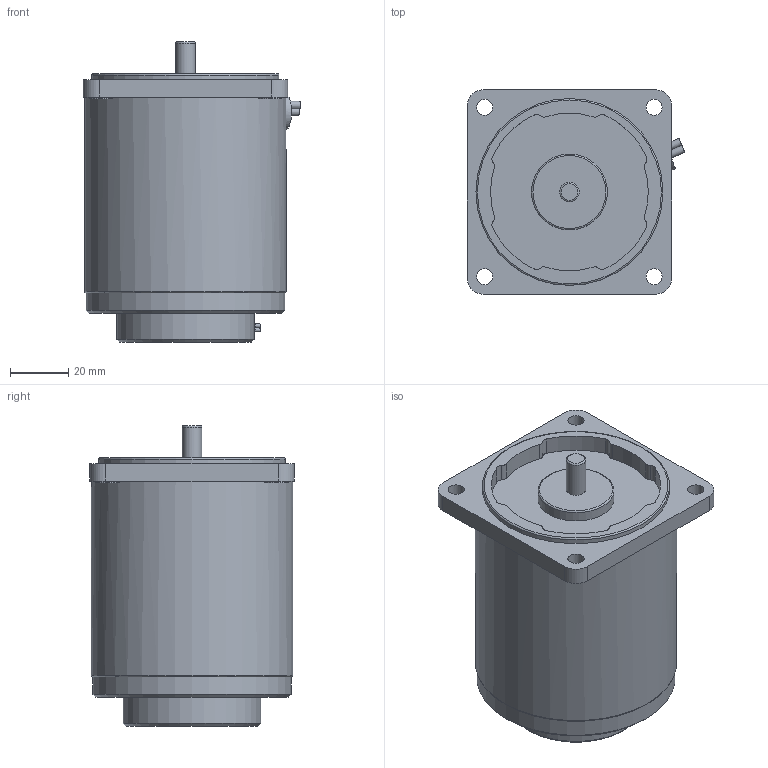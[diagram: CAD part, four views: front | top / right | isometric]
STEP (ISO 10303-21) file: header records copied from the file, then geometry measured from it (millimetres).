
FILE_DESCRIPTION((''),'2;1');
FILE_NAME('E:\2공장-도면\3D\표준형 3D(민규)\step file\SU,SP\K7IG15Nㅁ-Sㅁ.stp','2014-11-14T14:00:38',('AHN'),(''),'Autodesk Inventor 2012','Autodesk Inventor 2012','');
FILE_SCHEMA(('CONFIG_CONTROL_DESIGN'));
Length unit declared in the file: millimetre
Products named in the file (1): K7IG15Nㅁ-Sㅁ
Bounding box: 74.51 x 70 x 103 mm (x, y, z)
Volume: 316397.7 mm3; surface area: 31181 mm2
Topology: 1 solids, 1 shells, 83 faces, 190 edges, 117 vertices
Faces by surface type: cylinder 52, plane 25, torus 4, cone 2
Full cylindrical faces by diameter (mm): 1.4 x2, 5.5 x4, 6.7 x1, 7 x1, 8 x4, 26 x1, 47 x1, 64 x1, 68 x1, 69 x1
Entity records: 2318 total; most frequent: DIRECTION 437, CARTESIAN_POINT 423, ORIENTED_EDGE 328, AXIS2_PLACEMENT_3D 191, EDGE_CURVE 164, EDGE_LOOP 124, VERTEX_POINT 112, CIRCLE 107
